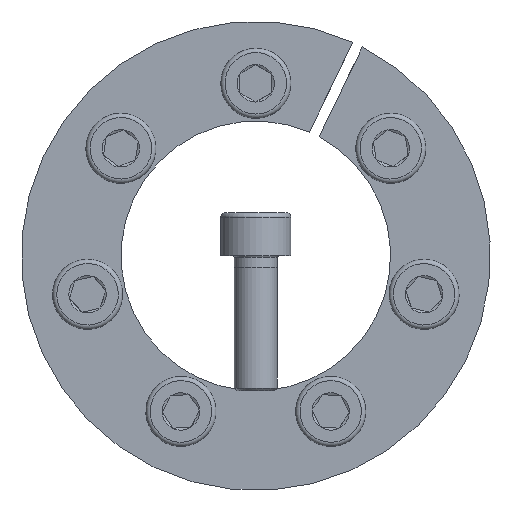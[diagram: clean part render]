
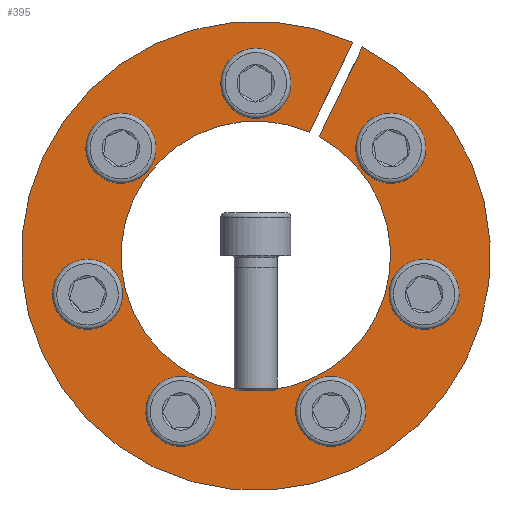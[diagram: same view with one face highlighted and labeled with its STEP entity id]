
A CAD part, front view. The second image highlights one B-rep face of the part: STEP entity #395.
In plain terms, the highlighted planar face has unit normal (0, -1, 0).
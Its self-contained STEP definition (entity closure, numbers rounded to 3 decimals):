
#395 = ADVANCED_FACE( '', ( #645, #646, #647, #648, #649, #650, #651, #652 ), #653, .F. );
#645 = FACE_OUTER_BOUND( '', #792, .T. );
#646 = FACE_BOUND( '', #793, .T. );
#647 = FACE_BOUND( '', #794, .T. );
#648 = FACE_BOUND( '', #795, .T. );
#649 = FACE_BOUND( '', #796, .T. );
#650 = FACE_BOUND( '', #797, .T. );
#651 = FACE_BOUND( '', #798, .T. );
#652 = FACE_BOUND( '', #799, .T. );
#653 = PLANE( '', #800 );
#792 = EDGE_LOOP( '', ( #1078, #1079, #1080, #1081 ) );
#793 = EDGE_LOOP( '', ( #1082 ) );
#794 = EDGE_LOOP( '', ( #1083 ) );
#795 = EDGE_LOOP( '', ( #1084 ) );
#796 = EDGE_LOOP( '', ( #1085 ) );
#797 = EDGE_LOOP( '', ( #1086 ) );
#798 = EDGE_LOOP( '', ( #1087 ) );
#799 = EDGE_LOOP( '', ( #1088 ) );
#800 = AXIS2_PLACEMENT_3D( '', #1089, #1090, #1091 );
#1078 = ORIENTED_EDGE( '', *, *, #1286, .T. );
#1079 = ORIENTED_EDGE( '', *, *, #1232, .T. );
#1080 = ORIENTED_EDGE( '', *, *, #1246, .T. );
#1081 = ORIENTED_EDGE( '', *, *, #1276, .F. );
#1082 = ORIENTED_EDGE( '', *, *, #1290, .F. );
#1083 = ORIENTED_EDGE( '', *, *, #1233, .F. );
#1084 = ORIENTED_EDGE( '', *, *, #1288, .F. );
#1085 = ORIENTED_EDGE( '', *, *, #1277, .F. );
#1086 = ORIENTED_EDGE( '', *, *, #1260, .F. );
#1087 = ORIENTED_EDGE( '', *, *, #1262, .F. );
#1088 = ORIENTED_EDGE( '', *, *, #1293, .F. );
#1089 = CARTESIAN_POINT( '', ( 0., 0., 43.5 ) );
#1090 = DIRECTION( '', ( 0., 1., 0. ) );
#1091 = DIRECTION( '', ( 1., 0., 0. ) );
#1232 = EDGE_CURVE( '', #1358, #1362, #1364, .T. );
#1233 = EDGE_CURVE( '', #1365, #1365, #1366, .T. );
#1246 = EDGE_CURVE( '', #1362, #1388, #1390, .T. );
#1260 = EDGE_CURVE( '', #1415, #1415, #1416, .T. );
#1262 = EDGE_CURVE( '', #1419, #1419, #1420, .T. );
#1276 = EDGE_CURVE( '', #1441, #1388, #1443, .T. );
#1277 = EDGE_CURVE( '', #1444, #1444, #1445, .T. );
#1286 = EDGE_CURVE( '', #1441, #1358, #1459, .T. );
#1288 = EDGE_CURVE( '', #1461, #1461, #1462, .T. );
#1290 = EDGE_CURVE( '', #1464, #1464, #1465, .T. );
#1293 = EDGE_CURVE( '', #1468, #1468, #1469, .T. );
#1358 = VERTEX_POINT( '', #1471 );
#1362 = VERTEX_POINT( '', #1476 );
#1364 = CIRCLE( '', #1479, 43.5 );
#1365 = VERTEX_POINT( '', #1480 );
#1366 = CIRCLE( '', #1481, 4.5 );
#1388 = VERTEX_POINT( '', #1511 );
#1390 = LINE( '', #1514, #1515 );
#1415 = VERTEX_POINT( '', #1542 );
#1416 = CIRCLE( '', #1543, 4.5 );
#1419 = VERTEX_POINT( '', #1546 );
#1420 = CIRCLE( '', #1547, 4.5 );
#1441 = VERTEX_POINT( '', #1569 );
#1443 = CIRCLE( '', #1572, 25. );
#1444 = VERTEX_POINT( '', #1573 );
#1445 = CIRCLE( '', #1574, 4.5 );
#1459 = LINE( '', #1590, #1591 );
#1461 = VERTEX_POINT( '', #1594 );
#1462 = CIRCLE( '', #1595, 4.5 );
#1464 = VERTEX_POINT( '', #1597 );
#1465 = CIRCLE( '', #1598, 4.5 );
#1468 = VERTEX_POINT( '', #1601 );
#1469 = CIRCLE( '', #1602, 4.5 );
#1471 = CARTESIAN_POINT( '', ( 17.968, 0., 39.616 ) );
#1476 = CARTESIAN_POINT( '', ( 19.77, 0., 38.748 ) );
#1479 = AXIS2_PLACEMENT_3D( '', #1608, #1609, #1610 );
#1480 = CARTESIAN_POINT( '', ( 27.824, 0., 16.433 ) );
#1481 = AXIS2_PLACEMENT_3D( '', #1611, #1612, #1613 );
#1511 = CARTESIAN_POINT( '', ( 11.739, 0., 22.072 ) );
#1514 = CARTESIAN_POINT( '', ( 19.775, 0., 38.758 ) );
#1515 = VECTOR( '', #1632, 1000. );
#1542 = CARTESIAN_POINT( '', ( -17.939, 0., -26.879 ) );
#1543 = AXIS2_PLACEMENT_3D( '', #1668, #1669, #1670 );
#1546 = CARTESIAN_POINT( '', ( -32.199, 0., -2.733 ) );
#1547 = AXIS2_PLACEMENT_3D( '', #1674, #1675, #1676 );
#1569 = CARTESIAN_POINT( '', ( 9.937, 0., 22.94 ) );
#1572 = AXIS2_PLACEMENT_3D( '', #1712, #1713, #1714 );
#1573 = CARTESIAN_POINT( '', ( 9.83, 0., -30.783 ) );
#1574 = AXIS2_PLACEMENT_3D( '', #1715, #1716, #1717 );
#1590 = CARTESIAN_POINT( '', ( 9.937, 0., 22.94 ) );
#1591 = VECTOR( '', #1738, 1000. );
#1594 = CARTESIAN_POINT( '', ( 30.196, 0., -11.508 ) );
#1595 = AXIS2_PLACEMENT_3D( '', #1740, #1741, #1742 );
#1597 = CARTESIAN_POINT( '', ( 4.5, 0., 32. ) );
#1598 = AXIS2_PLACEMENT_3D( '', #1746, #1747, #1748 );
#1601 = CARTESIAN_POINT( '', ( -22.213, 0., 23.47 ) );
#1602 = AXIS2_PLACEMENT_3D( '', #1755, #1756, #1757 );
#1608 = CARTESIAN_POINT( '', ( 0., 0., 0. ) );
#1609 = DIRECTION( '', ( 0., -1., 0. ) );
#1610 = DIRECTION( '', ( 0., 0., -1. ) );
#1611 = CARTESIAN_POINT( '', ( 25.019, 0., 19.952 ) );
#1612 = DIRECTION( '', ( 0., -1., 0. ) );
#1613 = DIRECTION( '', ( 0.623, 0., -0.782 ) );
#1632 = DIRECTION( '', ( -0.434, 0., -0.901 ) );
#1668 = CARTESIAN_POINT( '', ( -13.884, 0., -28.831 ) );
#1669 = DIRECTION( '', ( 0., -1., 0. ) );
#1670 = DIRECTION( '', ( -0.901, 0., 0.434 ) );
#1674 = CARTESIAN_POINT( '', ( -31.198, 0., -7.121 ) );
#1675 = DIRECTION( '', ( 0., -1., 0. ) );
#1676 = DIRECTION( '', ( -0.223, 0., 0.975 ) );
#1712 = CARTESIAN_POINT( '', ( 0., 0., 0. ) );
#1713 = DIRECTION( '', ( 0., -1., 0. ) );
#1714 = DIRECTION( '', ( 0., 0., -1. ) );
#1715 = CARTESIAN_POINT( '', ( 13.884, 0., -28.831 ) );
#1716 = DIRECTION( '', ( 0., -1., 0. ) );
#1717 = DIRECTION( '', ( -0.901, 0., -0.434 ) );
#1738 = DIRECTION( '', ( 0.434, 0., 0.901 ) );
#1740 = CARTESIAN_POINT( '', ( 31.198, 0., -7.121 ) );
#1741 = DIRECTION( '', ( 0., -1., 0. ) );
#1742 = DIRECTION( '', ( -0.223, 0., -0.975 ) );
#1746 = CARTESIAN_POINT( '', ( 0., 0., 32. ) );
#1747 = DIRECTION( '', ( 0., -1., 0. ) );
#1748 = DIRECTION( '', ( 1., 0., 0. ) );
#1755 = CARTESIAN_POINT( '', ( -25.019, 0., 19.952 ) );
#1756 = DIRECTION( '', ( 0., -1., 0. ) );
#1757 = DIRECTION( '', ( 0.623, 0., 0.782 ) );
